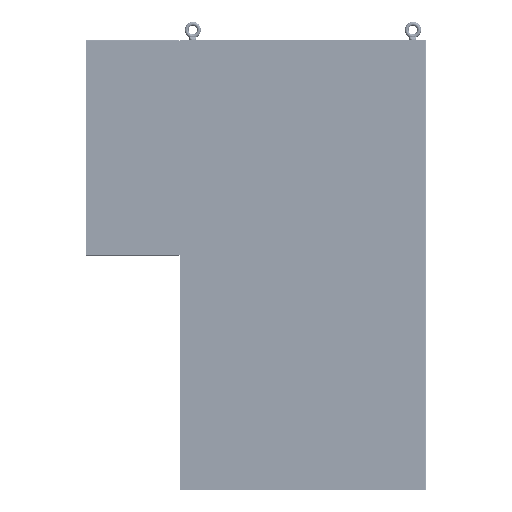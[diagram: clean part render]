
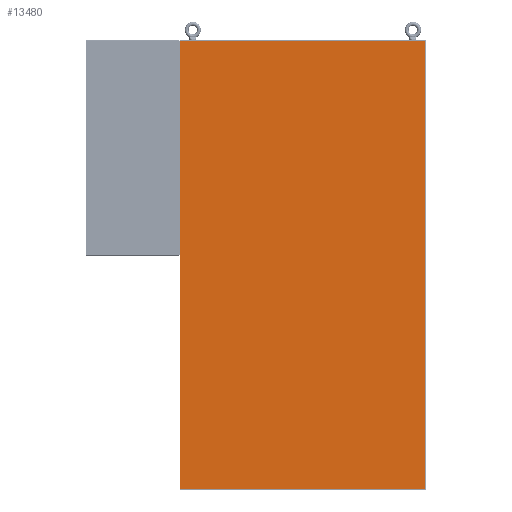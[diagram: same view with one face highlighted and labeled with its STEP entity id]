
A CAD part, front view. The second image highlights one B-rep face of the part: STEP entity #13480.
In plain terms, the highlighted planar face has unit normal (0, -1, 0).
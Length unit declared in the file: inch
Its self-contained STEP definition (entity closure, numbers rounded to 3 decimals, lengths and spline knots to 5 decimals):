
#11061=DIRECTION('',(0.,0.,-1.));
#11062=VECTOR('',#11061,71.75);
#11063=CARTESIAN_POINT('',(-2.2405,-17.1875,0.));
#11064=LINE('',#11063,#11062);
#11091=CARTESIAN_POINT('',(36.822,-17.1875,-71.6875));
#11092=DIRECTION('',(0.,-1.,0.));
#11093=DIRECTION('',(0.,0.,-1.));
#11094=AXIS2_PLACEMENT_3D('',#11091,#11092,#11093);
#11099=DIRECTION('',(1.,0.,0.));
#11100=VECTOR('',#11099,39.0625);
#11101=CARTESIAN_POINT('',(-2.2405,-17.1875,-71.75));
#11102=LINE('',#11101,#11100);
#11106=DIRECTION('',(-1.,0.,0.));
#11107=VECTOR('',#11106,39.0625);
#11108=CARTESIAN_POINT('',(36.822,-17.1875,0.));
#11109=LINE('',#11108,#11107);
#11113=CARTESIAN_POINT('',(36.822,-17.1875,-0.0625));
#11114=DIRECTION('',(0.,-1.,0.));
#11115=DIRECTION('',(1.,0.,0.));
#11116=AXIS2_PLACEMENT_3D('',#11113,#11114,#11115);
#11121=DIRECTION('',(0.,0.,1.));
#11122=VECTOR('',#11121,71.625);
#11123=CARTESIAN_POINT('',(36.8845,-17.1875,-71.6875));
#11124=LINE('',#11123,#11122);
#13112=CARTESIAN_POINT('',(-2.2405,-17.1875,0.));
#13113=CARTESIAN_POINT('',(-2.2405,-17.1875,-71.75));
#13114=VERTEX_POINT('',#13112);
#13115=VERTEX_POINT('',#13113);
#13192=CARTESIAN_POINT('',(36.822,-17.1875,-71.75));
#13193=CARTESIAN_POINT('',(36.8845,-17.1875,-71.6875));
#13194=VERTEX_POINT('',#13192);
#13195=VERTEX_POINT('',#13193);
#13200=CARTESIAN_POINT('',(36.8845,-17.1875,-0.0625));
#13201=CARTESIAN_POINT('',(36.822,-17.1875,0.));
#13202=VERTEX_POINT('',#13200);
#13203=VERTEX_POINT('',#13201);
#13462=CARTESIAN_POINT('',(-2.4905,-17.1875,-17.0478));
#13463=DIRECTION('',(0.,-1.,0.));
#13464=DIRECTION('',(0.,0.,1.));
#13465=AXIS2_PLACEMENT_3D('',#13462,#13463,#13464);
#13466=PLANE('',#13465);
#13468=ORIENTED_EDGE('',*,*,#13467,.F.);
#13470=ORIENTED_EDGE('',*,*,#13469,.F.);
#13471=ORIENTED_EDGE('',*,*,#13445,.F.);
#13473=ORIENTED_EDGE('',*,*,#13472,.F.);
#13475=ORIENTED_EDGE('',*,*,#13474,.F.);
#13477=ORIENTED_EDGE('',*,*,#13476,.F.);
#13478=EDGE_LOOP('',(#13468,#13470,#13471,#13473,#13475,#13477));
#13479=FACE_OUTER_BOUND('',#13478,.F.);
#11095=CIRCLE('',#11094,0.0625);
#11117=CIRCLE('',#11116,0.0625);
#13445=EDGE_CURVE('',#13114,#13115,#11064,.T.);
#13467=EDGE_CURVE('',#13194,#13195,#11095,.T.);
#13469=EDGE_CURVE('',#13115,#13194,#11102,.T.);
#13472=EDGE_CURVE('',#13203,#13114,#11109,.T.);
#13474=EDGE_CURVE('',#13202,#13203,#11117,.T.);
#13476=EDGE_CURVE('',#13195,#13202,#11124,.T.);
#13480=ADVANCED_FACE('',(#13479),#13466,.T.);
